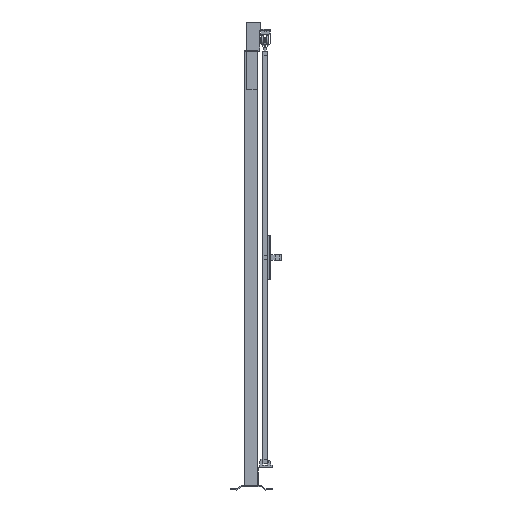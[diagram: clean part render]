
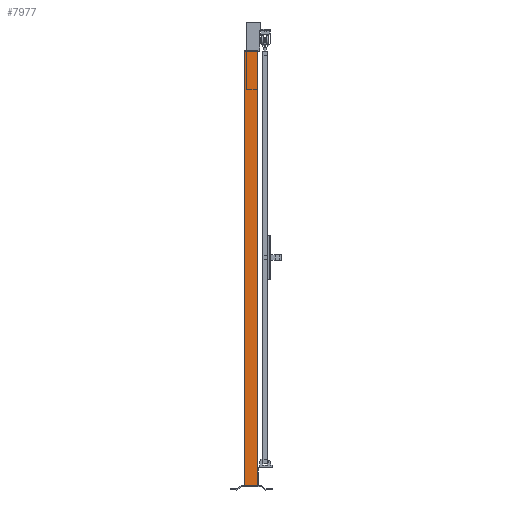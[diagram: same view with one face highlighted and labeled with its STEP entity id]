
A CAD part, left-side view. The second image highlights one B-rep face of the part: STEP entity #7977.
In plain terms, the highlighted planar face has unit normal (-1, 0, 0).
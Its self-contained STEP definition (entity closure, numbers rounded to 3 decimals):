
#833=FACE_OUTER_BOUND('',#1393,.T.);
#1393=EDGE_LOOP('',(#5386,#5387,#5388,#5389));
#2100=VERTEX_POINT('',#16492);
#2101=VERTEX_POINT('',#16494);
#2104=VERTEX_POINT('',#16501);
#2105=VERTEX_POINT('',#16503);
#3364=EDGE_CURVE('',#2100,#2101,#9208,.T.);
#3368=EDGE_CURVE('',#2104,#2105,#9212,.T.);
#3370=EDGE_CURVE('',#2101,#2104,#9214,.T.);
#3372=EDGE_CURVE('',#2100,#2105,#9216,.T.);
#5386=ORIENTED_EDGE('',*,*,#3372,.T.);
#5387=ORIENTED_EDGE('',*,*,#3368,.F.);
#5388=ORIENTED_EDGE('',*,*,#3370,.F.);
#5389=ORIENTED_EDGE('',*,*,#3364,.F.);
#7467=PLANE('',#11649);
#7977=ADVANCED_FACE('',(#833),#7467,.F.);
#9208=LINE('',#16495,#10568);
#9212=LINE('',#16504,#10572);
#9214=LINE('',#16507,#10574);
#9216=LINE('',#16510,#10576);
#10568=VECTOR('',#13204,1.);
#10572=VECTOR('',#13210,1.);
#10574=VECTOR('',#13214,1.);
#10576=VECTOR('',#13218,1.);
#11649=AXIS2_PLACEMENT_3D('',#16509,#13216,#13217);
#13204=DIRECTION('',(0.,-1.,0.));
#13210=DIRECTION('',(0.,1.,0.));
#13214=DIRECTION('',(0.,0.,-1.));
#13216=DIRECTION('center_axis',(1.,0.,0.));
#13217=DIRECTION('ref_axis',(0.,0.,-1.));
#13218=DIRECTION('',(0.,0.,-1.));
#16492=CARTESIAN_POINT('',(-30.,30.,2020.));
#16494=CARTESIAN_POINT('',(-30.,-30.,2020.));
#16495=CARTESIAN_POINT('',(-30.,0.,2020.));
#16501=CARTESIAN_POINT('',(-30.,-30.,20.));
#16503=CARTESIAN_POINT('',(-30.,30.,20.));
#16504=CARTESIAN_POINT('',(-30.,0.,20.));
#16507=CARTESIAN_POINT('',(-30.,-30.,1020.));
#16509=CARTESIAN_POINT('Origin',(-30.,0.,
1020.));
#16510=CARTESIAN_POINT('',(-30.,30.,1020.));
